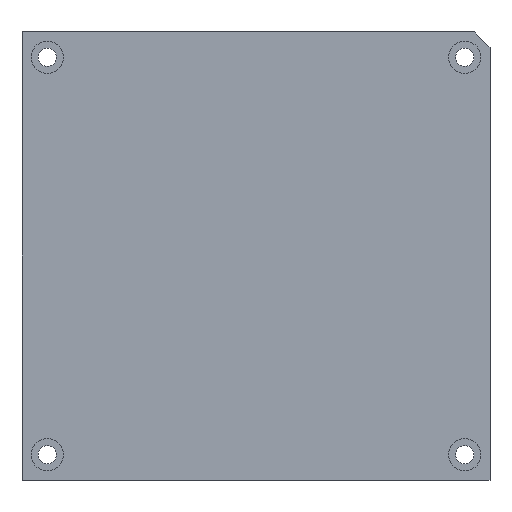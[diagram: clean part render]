
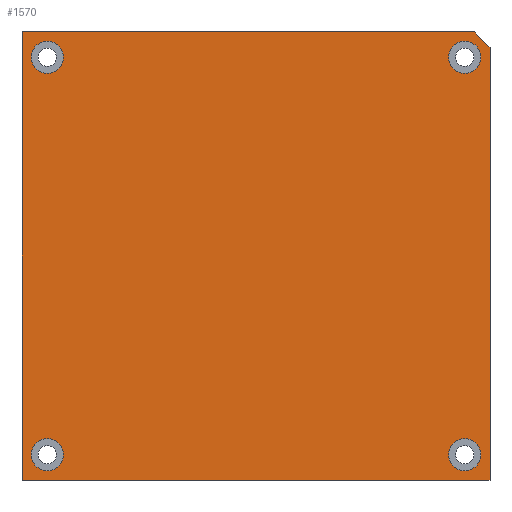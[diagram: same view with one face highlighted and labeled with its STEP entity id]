
A CAD part, front view. The second image highlights one B-rep face of the part: STEP entity #1570.
In plain terms, the highlighted planar face has unit normal (0, -1, 0).
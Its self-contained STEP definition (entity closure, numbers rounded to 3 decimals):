
#40=FACE_BOUND('',#302,.T.);
#41=FACE_BOUND('',#303,.T.);
#42=FACE_BOUND('',#304,.T.);
#43=FACE_BOUND('',#305,.T.);
#94=PLANE('',#1759);
#181=FACE_OUTER_BOUND('',#301,.T.);
#301=EDGE_LOOP('',(#1378,#1379,#1380,#1381,#1382));
#302=EDGE_LOOP('',(#1383));
#303=EDGE_LOOP('',(#1384));
#304=EDGE_LOOP('',(#1385));
#305=EDGE_LOOP('',(#1386));
#421=LINE('',#2617,#558);
#426=LINE('',#2626,#563);
#429=LINE('',#2631,#566);
#443=LINE('',#2672,#580);
#445=LINE('',#2675,#582);
#558=VECTOR('',#2154,10.);
#563=VECTOR('',#2161,10.);
#566=VECTOR('',#2166,10.);
#580=VECTOR('',#2204,10.);
#582=VECTOR('',#2208,10.);
#642=CIRCLE('',#1694,2.1);
#648=CIRCLE('',#1705,2.1);
#654=CIRCLE('',#1716,2.1);
#660=CIRCLE('',#1727,2.1);
#745=VERTEX_POINT('',#2473);
#751=VERTEX_POINT('',#2493);
#757=VERTEX_POINT('',#2513);
#763=VERTEX_POINT('',#2533);
#791=VERTEX_POINT('',#2614);
#792=VERTEX_POINT('',#2616);
#795=VERTEX_POINT('',#2624);
#796=VERTEX_POINT('',#2630);
#811=VERTEX_POINT('',#2671);
#913=EDGE_CURVE('',#745,#745,#642,.T.);
#922=EDGE_CURVE('',#751,#751,#648,.T.);
#931=EDGE_CURVE('',#757,#757,#654,.T.);
#940=EDGE_CURVE('',#763,#763,#660,.T.);
#980=EDGE_CURVE('',#791,#792,#421,.T.);
#985=EDGE_CURVE('',#795,#791,#426,.T.);
#988=EDGE_CURVE('',#792,#796,#429,.T.);
#1009=EDGE_CURVE('',#796,#811,#443,.T.);
#1011=EDGE_CURVE('',#811,#795,#445,.T.);
#1378=ORIENTED_EDGE('',*,*,#1011,.F.);
#1379=ORIENTED_EDGE('',*,*,#1009,.F.);
#1380=ORIENTED_EDGE('',*,*,#988,.F.);
#1381=ORIENTED_EDGE('',*,*,#980,.F.);
#1382=ORIENTED_EDGE('',*,*,#985,.F.);
#1383=ORIENTED_EDGE('',*,*,#913,.T.);
#1384=ORIENTED_EDGE('',*,*,#922,.T.);
#1385=ORIENTED_EDGE('',*,*,#931,.T.);
#1386=ORIENTED_EDGE('',*,*,#940,.T.);
#1570=ADVANCED_FACE('',(#181,#40,#41,#42,#43),#94,.F.);
#1694=AXIS2_PLACEMENT_3D('',#2474,#2008,#2009);
#1705=AXIS2_PLACEMENT_3D('',#2494,#2033,#2034);
#1716=AXIS2_PLACEMENT_3D('',#2514,#2058,#2059);
#1727=AXIS2_PLACEMENT_3D('',#2534,#2083,#2084);
#1759=AXIS2_PLACEMENT_3D('',#2676,#2209,#2210);
#2008=DIRECTION('center_axis',(0.,1.,0.));
#2009=DIRECTION('ref_axis',(-1.,0.,0.));
#2033=DIRECTION('center_axis',(0.,1.,0.));
#2034=DIRECTION('ref_axis',(-1.,0.,0.));
#2058=DIRECTION('center_axis',(0.,1.,0.));
#2059=DIRECTION('ref_axis',(1.,0.,0.));
#2083=DIRECTION('center_axis',(0.,1.,0.));
#2084=DIRECTION('ref_axis',(1.,0.,0.));
#2154=DIRECTION('',(-1.,0.,0.));
#2161=DIRECTION('',(0.,0.,-1.));
#2166=DIRECTION('',(0.,0.,1.));
#2204=DIRECTION('',(1.,0.,0.));
#2208=DIRECTION('',(0.707,0.,-0.707));
#2209=DIRECTION('center_axis',(0.,1.,0.));
#2210=DIRECTION('ref_axis',(0.,0.,1.));
#2473=CARTESIAN_POINT('',(-25.1,0.,-25.9));
#2474=CARTESIAN_POINT('Origin',(-27.2,0.,-25.9));
#2493=CARTESIAN_POINT('',(-25.1,0.,25.9));
#2494=CARTESIAN_POINT('Origin',(-27.2,0.,25.9));
#2513=CARTESIAN_POINT('',(25.1,0.,-25.9));
#2514=CARTESIAN_POINT('Origin',(27.2,0.,-25.9));
#2533=CARTESIAN_POINT('',(25.1,0.,25.9));
#2534=CARTESIAN_POINT('Origin',(27.2,0.,25.9));
#2614=CARTESIAN_POINT('',(30.5,0.,-29.2));
#2616=CARTESIAN_POINT('',(-30.5,0.,-29.2));
#2617=CARTESIAN_POINT('',(30.5,0.,-29.2));
#2624=CARTESIAN_POINT('',(30.5,0.,27.2));
#2626=CARTESIAN_POINT('',(30.5,0.,29.2));
#2630=CARTESIAN_POINT('',(-30.5,0.,29.2));
#2631=CARTESIAN_POINT('',(-30.5,0.,-29.2));
#2671=CARTESIAN_POINT('',(28.5,0.,29.2));
#2672=CARTESIAN_POINT('',(-30.5,0.,29.2));
#2675=CARTESIAN_POINT('',(29.175,0.,28.525));
#2676=CARTESIAN_POINT('Origin',(0.,0.,0.));
